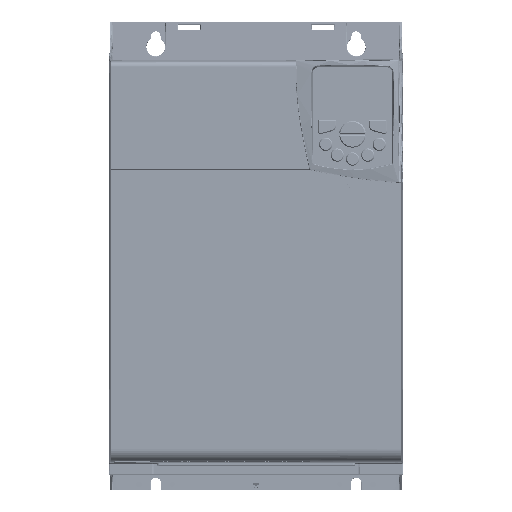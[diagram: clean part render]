
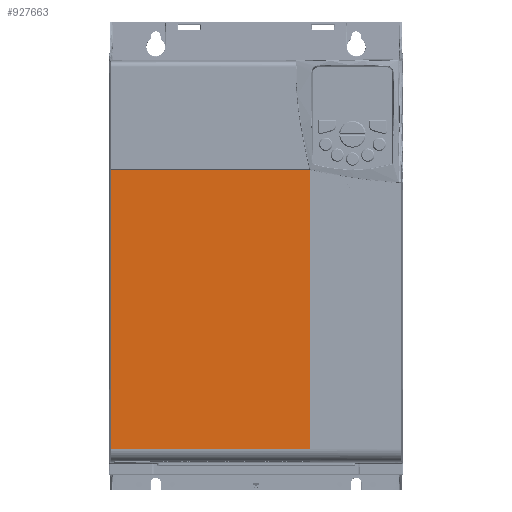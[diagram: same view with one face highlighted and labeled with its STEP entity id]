
A CAD part, top view. The second image highlights one B-rep face of the part: STEP entity #927663.
In plain terms, the highlighted planar face has unit normal (0, 0, 1).
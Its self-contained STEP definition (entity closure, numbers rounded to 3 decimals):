
#16970 = CARTESIAN_POINT ( 'NONE',  ( 0., -151., 75. ) ) ;
#51367 = CARTESIAN_POINT ( 'NONE',  ( 39.437, 68.581, 75. ) ) ;
#67427 = FACE_OUTER_BOUND ( 'NONE', #114052, .T. ) ;
#81539 = LINE ( 'NONE', #198771, #255755 ) ;
#92002 = DIRECTION ( 'NONE',  ( -1., 0., 0. ) ) ;
#94837 = ORIENTED_EDGE ( 'NONE', *, *, #664132, .F. ) ;
#114052 = EDGE_LOOP ( 'NONE', ( #402604, #94837, #457269, #185219, #361847 ) ) ;
#117192 = CIRCLE ( 'NONE', #769503, 420.216 ) ;
#140466 = EDGE_CURVE ( 'NONE', #223447, #960884, #274876, .T. ) ;
#151290 = EDGE_CURVE ( 'NONE', #492521, #489967, #725410, .T. ) ;
#185219 = ORIENTED_EDGE ( 'NONE', *, *, #661175, .T. ) ;
#198771 = CARTESIAN_POINT ( 'NONE',  ( -108.208, -151., 75. ) ) ;
#223447 = VERTEX_POINT ( 'NONE', #940641 ) ;
#255755 = VECTOR ( 'NONE', #273339, 1000. ) ;
#263431 = CARTESIAN_POINT ( 'NONE',  ( -108.208, -139.873, 75. ) ) ;
#273339 = DIRECTION ( 'NONE',  ( 0., -1., 0. ) ) ;
#274876 = LINE ( 'NONE', #886809, #670619 ) ;
#277393 = CARTESIAN_POINT ( 'NONE',  ( 40.184, 68.6, 75. ) ) ;
#291257 = DIRECTION ( 'NONE',  ( -1., 0., 0. ) ) ;
#294137 = CARTESIAN_POINT ( 'NONE',  ( 40.184, 68.409, 75. ) ) ;
#323612 = DIRECTION ( 'NONE',  ( 0., 0., 1. ) ) ;
#361847 = ORIENTED_EDGE ( 'NONE', *, *, #140466, .F. ) ;
#402604 = ORIENTED_EDGE ( 'NONE', *, *, #604809, .T. ) ;
#457269 = ORIENTED_EDGE ( 'NONE', *, *, #151290, .T. ) ;
#489967 = VERTEX_POINT ( 'NONE', #661100 ) ;
#492521 = VERTEX_POINT ( 'NONE', #51367 ) ;
#518573 = DIRECTION ( 'NONE',  ( -1., 0., 0. ) ) ;
#527783 = VECTOR ( 'NONE', #518573, 1000. ) ;
#537615 = DIRECTION ( 'NONE',  ( 0., 0., -1. ) ) ;
#563913 = LINE ( 'NONE', #277393, #761385 ) ;
#573657 = DIRECTION ( 'NONE',  ( 0., 1., 0. ) ) ;
#582035 = VERTEX_POINT ( 'NONE', #294137 ) ;
#604809 = EDGE_CURVE ( 'NONE', #223447, #582035, #563913, .T. ) ;
#661100 = CARTESIAN_POINT ( 'NONE',  ( -108.208, 68.581, 75. ) ) ;
#661175 = EDGE_CURVE ( 'NONE', #489967, #960884, #81539, .T. ) ;
#664132 = EDGE_CURVE ( 'NONE', #492521, #582035, #117192, .T. ) ;
#670619 = VECTOR ( 'NONE', #291257, 1000. ) ;
#725410 = LINE ( 'NONE', #739492, #527783 ) ;
#739492 = CARTESIAN_POINT ( 'NONE',  ( 0., 68.581, 75. ) ) ;
#761385 = VECTOR ( 'NONE', #573657, 1000. ) ;
#769385 = CARTESIAN_POINT ( 'NONE',  ( 133.983, 478.023, 75. ) ) ;
#769503 = AXIS2_PLACEMENT_3D ( 'NONE', #769385, #323612, #844262 ) ;
#844262 = DIRECTION ( 'NONE',  ( -1., 0., 0. ) ) ;
#886809 = CARTESIAN_POINT ( 'NONE',  ( 40.184, -139.873, 75. ) ) ;
#905177 = PLANE ( 'NONE',  #956604 ) ;
#927663 = ADVANCED_FACE ( 'NONE', ( #67427 ), #905177, .F. ) ;
#940641 = CARTESIAN_POINT ( 'NONE',  ( 40.184, -139.873, 75. ) ) ;
#956604 = AXIS2_PLACEMENT_3D ( 'NONE', #16970, #537615, #92002 ) ;
#960884 = VERTEX_POINT ( 'NONE', #263431 ) ;
